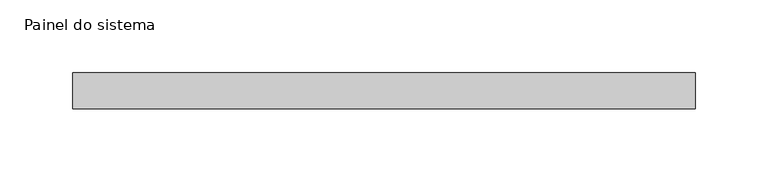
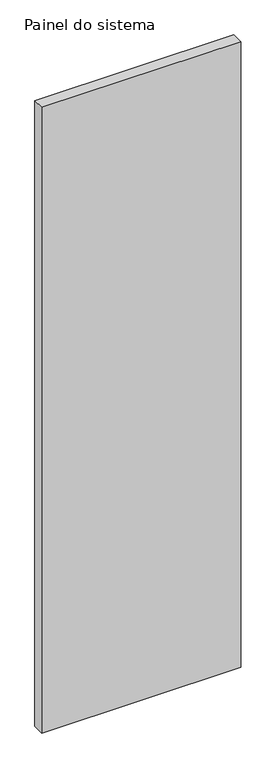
"""IFC4 building model written with IfcOpenShell, lengths in millimetres: plate geometry, Painel do sistema : Envidraçado."""

from ifc_helpers import new_model, si_unit, origin, origin_with_axes, place, context, project, spatial, polyline, outline, extrude, source, transform, mapped, element, save


def painel_do_sistema_5e1471f6(model_context):
    return source(origin(), model_context, "Body", "SweptSolid", [
        extrude(outline(polyline([(214.3692455, 24.5), (-214.3692455, 24.5), (-214.3692455, 49.5), (214.3692455, 49.5), (214.3692455, 24.5)])), origin_with_axes(), (0.0, 0.0, 1.0), 1425.0),
    ])


if __name__ == "__main__":
    model = new_model("IFC4")
    model_context = context("Model", 3, world=origin())
    ifc_project = project(units=[si_unit("LENGTHUNIT", "METRE", prefix="MILLI")], contexts=[model_context])
    site = spatial("IfcSite", under=ifc_project)
    building = spatial("IfcBuilding", under=site)
    placement = place(None, origin())
    painel_do_sistema_shape = painel_do_sistema_5e1471f6(model_context)
    element("IfcPlate", 1, ObjectType="Painel do sistema : Envidraçado", at=placement, inside=building, context=model_context, shape_type="MappedRepresentation", body=[
        mapped(painel_do_sistema_shape, transform((0.0, 0.0, 0.0), x_axis=(1.0, 0.0, 0.0), y_axis=(0.0, 1.0, 0.0), z_axis=(0.0, 0.0, 1.0))),
    ])
    save(model, "model.ifc")
